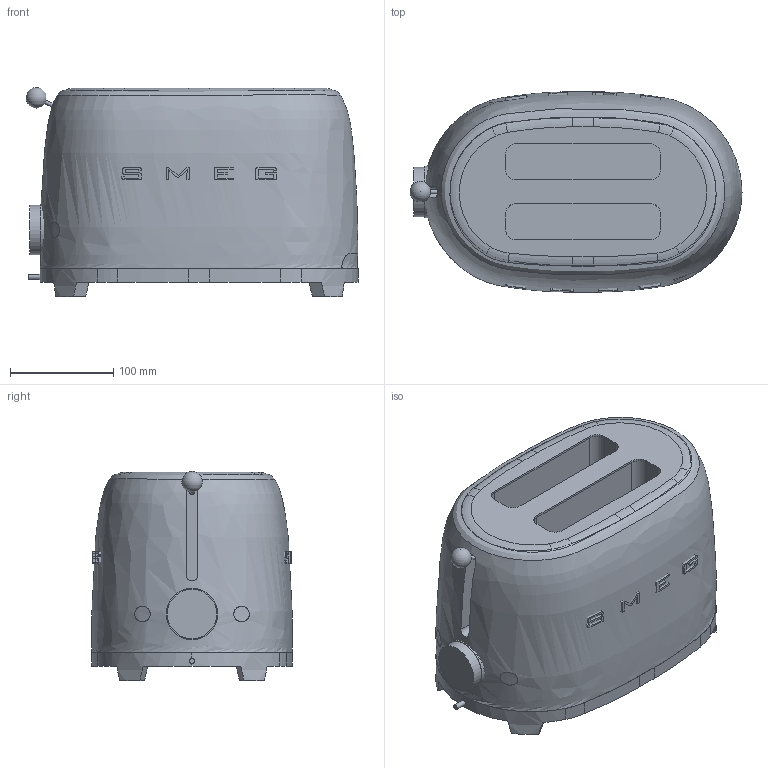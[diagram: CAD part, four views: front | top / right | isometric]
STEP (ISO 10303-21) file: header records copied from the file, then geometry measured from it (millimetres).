
FILE_DESCRIPTION(/* description */ (''),/* implementation_level */ '2;1');
FILE_NAME(/* name */ 'TSF01.stp',/* time_stamp */ '2017-11-27T12:10:30+01:00',/* author */ (''),/* organization */ (''),/* preprocessor_version */ 'ST-DEVELOPER v16',/* originating_system */ 'SIEMENS PLM Software NX 11.0',/* authorisation */ '');
FILE_SCHEMA (('AUTOMOTIVE_DESIGN { 1 0 10303 214 3 1 1 1 }'));
Length unit declared in the file: millimetre
Products named in the file (1): gras3994FDE92ft4
Bounding box: 321.58 x 194.03 x 202.57 mm (x, y, z)
Volume: 8263327.8 mm3; surface area: 508884.1 mm2
Topology: 18 solids, 18 shells, 247 faces, 693 edges, 557 vertices
Faces by surface type: plane 155, cylinder 48, extrusion 28, torus 10, bspline 5, sphere 1
Full cylindrical faces by diameter (mm): 5 x1, 15 x4, 48 x2, 50 x1
Entity records: 12200 total; most frequent: CARTESIAN_POINT 5943, ORIENTED_EDGE 1200, DIRECTION 1089, EDGE_CURVE 600, VERTEX_POINT 408, AXIS2_PLACEMENT_3D 408, VECTOR 273, EDGE_LOOP 269
